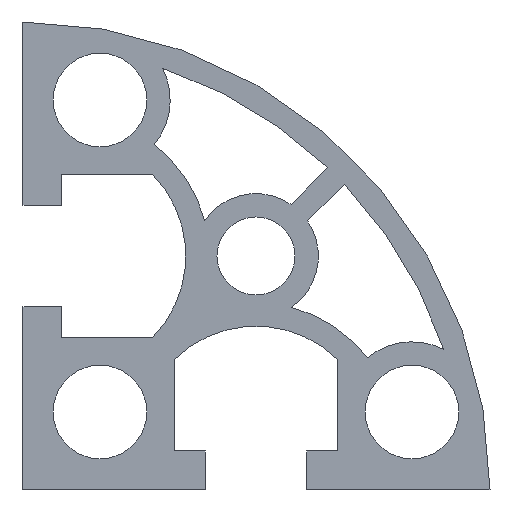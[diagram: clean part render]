
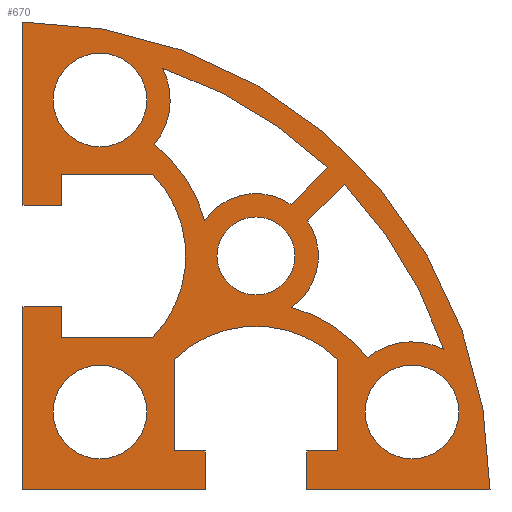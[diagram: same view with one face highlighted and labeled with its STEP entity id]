
A CAD part, front view. The second image highlights one B-rep face of the part: STEP entity #670.
In plain terms, the highlighted planar face has unit normal (0, -1, 0).
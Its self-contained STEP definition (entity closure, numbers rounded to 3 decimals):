
#20=PLANE('',#722);
#44=LINE('',#998,#109);
#45=LINE('',#1005,#110);
#46=LINE('',#1008,#111);
#47=LINE('',#1012,#112);
#48=LINE('',#1014,#113);
#49=LINE('',#1016,#114);
#50=LINE('',#1018,#115);
#51=LINE('',#1022,#116);
#52=LINE('',#1024,#117);
#53=LINE('',#1026,#118);
#54=LINE('',#1028,#119);
#55=LINE('',#1030,#120);
#56=LINE('',#1032,#121);
#57=LINE('',#1034,#122);
#58=LINE('',#1036,#123);
#59=LINE('',#1040,#124);
#60=LINE('',#1042,#125);
#61=LINE('',#1053,#126);
#109=VECTOR('',#801,1000.);
#110=VECTOR('',#808,1000.);
#111=VECTOR('',#809,1000.);
#112=VECTOR('',#812,1000.);
#113=VECTOR('',#813,1000.);
#114=VECTOR('',#814,1000.);
#115=VECTOR('',#815,1000.);
#116=VECTOR('',#818,1000.);
#117=VECTOR('',#819,1000.);
#118=VECTOR('',#820,1000.);
#119=VECTOR('',#821,1000.);
#120=VECTOR('',#822,1000.);
#121=VECTOR('',#823,1000.);
#122=VECTOR('',#824,1000.);
#123=VECTOR('',#825,1000.);
#124=VECTOR('',#828,1000.);
#125=VECTOR('',#829,1000.);
#126=VECTOR('',#840,1000.);
#178=ORIENTED_EDGE('',*,*,#368,.F.);
#179=ORIENTED_EDGE('',*,*,#369,.T.);
#180=ORIENTED_EDGE('',*,*,#370,.T.);
#181=ORIENTED_EDGE('',*,*,#371,.T.);
#182=ORIENTED_EDGE('',*,*,#366,.T.);
#183=ORIENTED_EDGE('',*,*,#372,.T.);
#184=ORIENTED_EDGE('',*,*,#373,.F.);
#185=ORIENTED_EDGE('',*,*,#374,.F.);
#186=ORIENTED_EDGE('',*,*,#375,.F.);
#187=ORIENTED_EDGE('',*,*,#376,.T.);
#188=ORIENTED_EDGE('',*,*,#377,.T.);
#189=ORIENTED_EDGE('',*,*,#378,.T.);
#190=ORIENTED_EDGE('',*,*,#379,.T.);
#191=ORIENTED_EDGE('',*,*,#380,.T.);
#192=ORIENTED_EDGE('',*,*,#381,.T.);
#193=ORIENTED_EDGE('',*,*,#382,.T.);
#194=ORIENTED_EDGE('',*,*,#383,.F.);
#195=ORIENTED_EDGE('',*,*,#384,.F.);
#196=ORIENTED_EDGE('',*,*,#385,.T.);
#197=ORIENTED_EDGE('',*,*,#386,.T.);
#198=ORIENTED_EDGE('',*,*,#387,.T.);
#199=ORIENTED_EDGE('',*,*,#388,.T.);
#200=ORIENTED_EDGE('',*,*,#389,.T.);
#201=ORIENTED_EDGE('',*,*,#390,.T.);
#202=ORIENTED_EDGE('',*,*,#391,.T.);
#203=ORIENTED_EDGE('',*,*,#392,.T.);
#204=ORIENTED_EDGE('',*,*,#393,.T.);
#205=ORIENTED_EDGE('',*,*,#394,.T.);
#206=ORIENTED_EDGE('',*,*,#395,.T.);
#207=ORIENTED_EDGE('',*,*,#362,.T.);
#208=ORIENTED_EDGE('',*,*,#396,.F.);
#209=ORIENTED_EDGE('',*,*,#397,.T.);
#210=ORIENTED_EDGE('',*,*,#398,.T.);
#362=EDGE_CURVE('',#458,#457,#522,.T.);
#366=EDGE_CURVE('',#462,#461,#524,.T.);
#368=EDGE_CURVE('',#463,#461,#44,.T.);
#369=EDGE_CURVE('',#463,#464,#525,.T.);
#370=EDGE_CURVE('',#464,#465,#526,.T.);
#371=EDGE_CURVE('',#465,#462,#527,.T.);
#372=EDGE_CURVE('',#466,#467,#45,.T.);
#373=EDGE_CURVE('',#468,#467,#46,.T.);
#374=EDGE_CURVE('',#469,#468,#528,.T.);
#375=EDGE_CURVE('',#470,#469,#47,.T.);
#376=EDGE_CURVE('',#470,#471,#48,.T.);
#377=EDGE_CURVE('',#471,#472,#49,.T.);
#378=EDGE_CURVE('',#472,#473,#50,.T.);
#379=EDGE_CURVE('',#473,#474,#529,.T.);
#380=EDGE_CURVE('',#474,#475,#51,.T.);
#381=EDGE_CURVE('',#475,#476,#52,.T.);
#382=EDGE_CURVE('',#476,#477,#53,.T.);
#383=EDGE_CURVE('',#478,#477,#54,.T.);
#384=EDGE_CURVE('',#479,#478,#55,.T.);
#385=EDGE_CURVE('',#479,#480,#56,.T.);
#386=EDGE_CURVE('',#480,#481,#57,.T.);
#387=EDGE_CURVE('',#481,#482,#58,.T.);
#388=EDGE_CURVE('',#482,#483,#530,.T.);
#389=EDGE_CURVE('',#483,#484,#59,.T.);
#390=EDGE_CURVE('',#484,#466,#60,.T.);
#391=EDGE_CURVE('',#485,#485,#531,.T.);
#392=EDGE_CURVE('',#486,#486,#532,.T.);
#393=EDGE_CURVE('',#487,#487,#533,.T.);
#394=EDGE_CURVE('',#488,#488,#534,.T.);
#395=EDGE_CURVE('',#489,#458,#535,.T.);
#396=EDGE_CURVE('',#490,#457,#61,.T.);
#397=EDGE_CURVE('',#490,#491,#536,.T.);
#398=EDGE_CURVE('',#491,#489,#537,.T.);
#457=VERTEX_POINT('',#984);
#458=VERTEX_POINT('',#986);
#461=VERTEX_POINT('',#993);
#462=VERTEX_POINT('',#995);
#463=VERTEX_POINT('',#999);
#464=VERTEX_POINT('',#1001);
#465=VERTEX_POINT('',#1003);
#466=VERTEX_POINT('',#1006);
#467=VERTEX_POINT('',#1007);
#468=VERTEX_POINT('',#1009);
#469=VERTEX_POINT('',#1011);
#470=VERTEX_POINT('',#1013);
#471=VERTEX_POINT('',#1015);
#472=VERTEX_POINT('',#1017);
#473=VERTEX_POINT('',#1019);
#474=VERTEX_POINT('',#1021);
#475=VERTEX_POINT('',#1023);
#476=VERTEX_POINT('',#1025);
#477=VERTEX_POINT('',#1027);
#478=VERTEX_POINT('',#1029);
#479=VERTEX_POINT('',#1031);
#480=VERTEX_POINT('',#1033);
#481=VERTEX_POINT('',#1035);
#482=VERTEX_POINT('',#1037);
#483=VERTEX_POINT('',#1039);
#484=VERTEX_POINT('',#1041);
#485=VERTEX_POINT('',#1044);
#486=VERTEX_POINT('',#1046);
#487=VERTEX_POINT('',#1048);
#488=VERTEX_POINT('',#1050);
#489=VERTEX_POINT('',#1052);
#490=VERTEX_POINT('',#1054);
#491=VERTEX_POINT('',#1056);
#522=CIRCLE('',#718,28.5);
#524=CIRCLE('',#721,4.);
#525=CIRCLE('',#723,28.5);
#526=CIRCLE('',#724,4.5);
#527=CIRCLE('',#725,9.);
#528=CIRCLE('',#726,30.);
#529=CIRCLE('',#727,7.5);
#530=CIRCLE('',#728,7.5);
#531=CIRCLE('',#729,3.);
#532=CIRCLE('',#730,2.5);
#533=CIRCLE('',#731,3.);
#534=CIRCLE('',#732,3.);
#535=CIRCLE('',#733,4.5);
#536=CIRCLE('',#734,4.);
#537=CIRCLE('',#735,9.);
#553=EDGE_LOOP('',(#178,#179,#180,#181,#182));
#554=EDGE_LOOP('',(#183,#184,#185,#186,#187,#188,#189,#190,#191,#192,#193,
#194,#195,#196,#197,#198,#199,#200,#201));
#555=EDGE_LOOP('',(#202));
#556=EDGE_LOOP('',(#203));
#557=EDGE_LOOP('',(#204));
#558=EDGE_LOOP('',(#205));
#559=EDGE_LOOP('',(#206,#207,#208,#209,#210));
#604=FACE_BOUND('',#553,.T.);
#605=FACE_BOUND('',#554,.T.);
#606=FACE_BOUND('',#555,.T.);
#607=FACE_BOUND('',#556,.T.);
#608=FACE_BOUND('',#557,.T.);
#609=FACE_BOUND('',#558,.T.);
#610=FACE_BOUND('',#559,.T.);
#670=ADVANCED_FACE('',(#604,#605,#606,#607,#608,#609,#610),#20,.F.);
#718=AXIS2_PLACEMENT_3D('',#985,#788,#789);
#721=AXIS2_PLACEMENT_3D('',#994,#796,#797);
#722=AXIS2_PLACEMENT_3D('',#997,#799,#800);
#723=AXIS2_PLACEMENT_3D('',#1000,#802,#803);
#724=AXIS2_PLACEMENT_3D('',#1002,#804,#805);
#725=AXIS2_PLACEMENT_3D('',#1004,#806,#807);
#726=AXIS2_PLACEMENT_3D('',#1010,#810,#811);
#727=AXIS2_PLACEMENT_3D('',#1020,#816,#817);
#728=AXIS2_PLACEMENT_3D('',#1038,#826,#827);
#729=AXIS2_PLACEMENT_3D('',#1043,#830,#831);
#730=AXIS2_PLACEMENT_3D('',#1045,#832,#833);
#731=AXIS2_PLACEMENT_3D('',#1047,#834,#835);
#732=AXIS2_PLACEMENT_3D('',#1049,#836,#837);
#733=AXIS2_PLACEMENT_3D('',#1051,#838,#839);
#734=AXIS2_PLACEMENT_3D('',#1055,#841,#842);
#735=AXIS2_PLACEMENT_3D('',#1057,#843,#844);
#788=DIRECTION('',(0.,1.,0.));
#789=DIRECTION('',(1.,0.,0.));
#796=DIRECTION('',(0.,-1.,0.));
#797=DIRECTION('',(-1.,0.,0.));
#799=DIRECTION('',(0.,1.,0.));
#800=DIRECTION('',(0.,0.,1.));
#801=DIRECTION('',(-0.707,0.,-0.707));
#802=DIRECTION('',(0.,1.,0.));
#803=DIRECTION('',(1.,0.,0.));
#804=DIRECTION('',(0.,-1.,0.));
#805=DIRECTION('',(1.,0.,0.));
#806=DIRECTION('',(0.,-1.,0.));
#807=DIRECTION('',(1.,0.,0.));
#808=DIRECTION('',(0.,0.,-1.));
#809=DIRECTION('',(-1.,0.,0.));
#810=DIRECTION('',(0.,1.,0.));
#811=DIRECTION('',(-1.,0.,0.));
#812=DIRECTION('',(0.,0.,1.));
#813=DIRECTION('',(1.,0.,0.));
#814=DIRECTION('',(0.,0.,1.));
#815=DIRECTION('',(1.,0.,0.));
#816=DIRECTION('',(0.,1.,0.));
#817=DIRECTION('',(-1.,0.,0.));
#818=DIRECTION('',(-1.,0.,0.));
#819=DIRECTION('',(0.,0.,1.));
#820=DIRECTION('',(-1.,0.,0.));
#821=DIRECTION('',(0.,0.,1.));
#822=DIRECTION('',(-1.,0.,0.));
#823=DIRECTION('',(0.,0.,1.));
#824=DIRECTION('',(-1.,0.,0.));
#825=DIRECTION('',(0.,0.,1.));
#826=DIRECTION('',(0.,1.,0.));
#827=DIRECTION('',(1.,0.,0.));
#828=DIRECTION('',(0.,0.,-1.));
#829=DIRECTION('',(-1.,0.,0.));
#830=DIRECTION('',(0.,1.,0.));
#831=DIRECTION('',(1.,0.,0.));
#832=DIRECTION('',(0.,1.,0.));
#833=DIRECTION('',(1.,0.,0.));
#834=DIRECTION('',(0.,1.,0.));
#835=DIRECTION('',(1.,0.,0.));
#836=DIRECTION('',(0.,1.,0.));
#837=DIRECTION('',(1.,0.,0.));
#838=DIRECTION('',(0.,-1.,0.));
#839=DIRECTION('',(-1.,0.,0.));
#840=DIRECTION('',(0.707,0.,0.707));
#841=DIRECTION('',(0.,-1.,0.));
#842=DIRECTION('',(-1.,0.,0.));
#843=DIRECTION('',(0.,-1.,0.));
#844=DIRECTION('',(1.,0.,0.));
#984=CARTESIAN_POINT('',(19.615,-50.,20.676));
#985=CARTESIAN_POINT('',(0.,-50.,0.));
#986=CARTESIAN_POINT('',(9.012,-50.,27.038));
#993=CARTESIAN_POINT('',(18.309,-50.,17.248));
#994=CARTESIAN_POINT('',(15.,-50.,15.));
#995=CARTESIAN_POINT('',(17.273,-50.,11.708));
#997=CARTESIAN_POINT('',(0.,-50.,0.));
#998=CARTESIAN_POINT('',(18.309,-50.,17.248));
#999=CARTESIAN_POINT('',(20.676,-50.,19.615));
#1000=CARTESIAN_POINT('',(0.,-50.,0.));
#1001=CARTESIAN_POINT('',(27.038,-50.,9.012));
#1002=CARTESIAN_POINT('',(25.,-50.,5.));
#1003=CARTESIAN_POINT('',(22.142,-50.,8.476));
#1004=CARTESIAN_POINT('',(15.,-50.,3.));
#1005=CARTESIAN_POINT('',(18.25,-50.,2.5));
#1006=CARTESIAN_POINT('',(18.25,-50.,2.5));
#1007=CARTESIAN_POINT('',(18.25,-50.,0.));
#1008=CARTESIAN_POINT('',(0.,-50.,0.));
#1009=CARTESIAN_POINT('',(30.,-50.,0.));
#1010=CARTESIAN_POINT('',(0.,-50.,0.));
#1011=CARTESIAN_POINT('',(0.,-50.,30.));
#1012=CARTESIAN_POINT('',(0.,-50.,30.));
#1013=CARTESIAN_POINT('',(0.,-50.,18.25));
#1014=CARTESIAN_POINT('',(0.,-50.,18.25));
#1015=CARTESIAN_POINT('',(2.5,-50.,18.25));
#1016=CARTESIAN_POINT('',(2.5,-50.,18.25));
#1017=CARTESIAN_POINT('',(2.5,-50.,20.25));
#1018=CARTESIAN_POINT('',(2.5,-50.,20.25));
#1019=CARTESIAN_POINT('',(8.356,-50.,20.25));
#1020=CARTESIAN_POINT('',(3.,-50.,15.));
#1021=CARTESIAN_POINT('',(8.356,-50.,9.75));
#1022=CARTESIAN_POINT('',(2.5,-50.,9.75));
#1023=CARTESIAN_POINT('',(2.5,-50.,9.75));
#1024=CARTESIAN_POINT('',(2.5,-50.,11.75));
#1025=CARTESIAN_POINT('',(2.5,-50.,11.75));
#1026=CARTESIAN_POINT('',(0.,-50.,11.75));
#1027=CARTESIAN_POINT('',(0.,-50.,11.75));
#1028=CARTESIAN_POINT('',(0.,-50.,30.));
#1029=CARTESIAN_POINT('',(0.,-50.,0.));
#1030=CARTESIAN_POINT('',(0.,-50.,0.));
#1031=CARTESIAN_POINT('',(11.75,-50.,0.));
#1032=CARTESIAN_POINT('',(11.75,-50.,0.));
#1033=CARTESIAN_POINT('',(11.75,-50.,2.5));
#1034=CARTESIAN_POINT('',(11.75,-50.,2.5));
#1035=CARTESIAN_POINT('',(9.75,-50.,2.5));
#1036=CARTESIAN_POINT('',(9.75,-50.,2.5));
#1037=CARTESIAN_POINT('',(9.75,-50.,8.356));
#1038=CARTESIAN_POINT('',(15.,-50.,3.));
#1039=CARTESIAN_POINT('',(20.25,-50.,8.356));
#1040=CARTESIAN_POINT('',(20.25,-50.,8.356));
#1041=CARTESIAN_POINT('',(20.25,-50.,2.5));
#1042=CARTESIAN_POINT('',(20.25,-50.,2.5));
#1043=CARTESIAN_POINT('',(5.,-50.,5.));
#1044=CARTESIAN_POINT('',(8.,-50.,5.));
#1045=CARTESIAN_POINT('',(15.,-50.,15.));
#1046=CARTESIAN_POINT('',(17.5,-50.,15.));
#1047=CARTESIAN_POINT('',(5.,-50.,25.));
#1048=CARTESIAN_POINT('',(8.,-50.,25.));
#1049=CARTESIAN_POINT('',(25.,-50.,5.));
#1050=CARTESIAN_POINT('',(28.,-50.,5.));
#1051=CARTESIAN_POINT('',(5.,-50.,25.));
#1052=CARTESIAN_POINT('',(8.476,-50.,22.142));
#1053=CARTESIAN_POINT('',(17.248,-50.,18.309));
#1054=CARTESIAN_POINT('',(17.248,-50.,18.309));
#1055=CARTESIAN_POINT('',(15.,-50.,15.));
#1056=CARTESIAN_POINT('',(11.708,-50.,17.273));
#1057=CARTESIAN_POINT('',(3.,-50.,15.));
